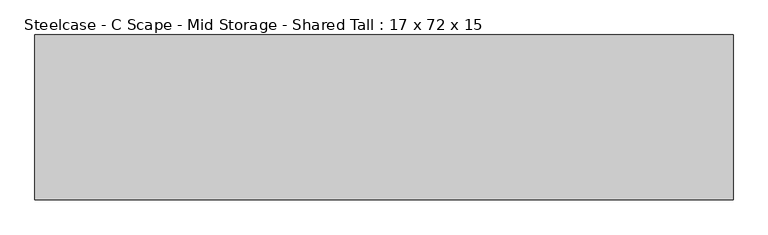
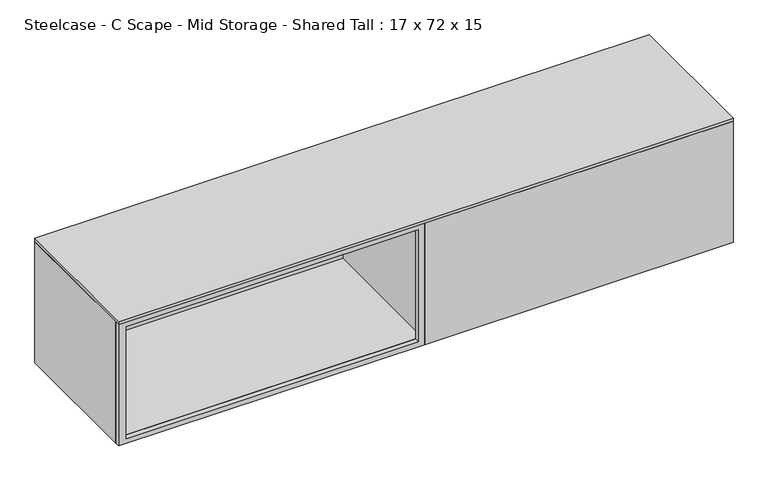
"""IFC4 building model written with IfcOpenShell, lengths in millimetres: furniture geometry, Steelcase - C Scape - Mid Storage - Shared Tall : 17 x 72 x 15."""

from ifc_helpers import new_model, si_unit, frame, origin, place, context, project, spatial, polyline, outline, extrude, faceted_brep, source, transform, mapped, element, save


def steelcase_c_scape_mid_storage_shared_tall_17_x_72_x_15_359ef890(model_context):
    return source(origin(), model_context, "Body", "SolidModel", [
        faceted_brep([(917.575, 215.9, 1219.279375), (0.0, 215.9, 1219.279375), (0.0, -201.2949309, 1219.279375), (21.9711633, -201.2949309, 1219.279375), (21.9711633, 206.3755809, 1219.279375), (911.225, 206.3755809, 1219.279375), (911.225, -215.9, 1219.279375), (1828.8, -215.9, 1219.279375), (1828.8, 206.3755809, 1219.279375), (1806.702, 206.3755809, 1219.279375), (1806.702, -201.2949309, 1219.279375), (917.575, -201.2949309, 1219.279375), (1828.8, 206.3755809, 838.2), (1828.8, -215.9, 838.2), (911.225, -215.9, 838.2), (911.225, -201.2949309, 838.2), (0.0, -201.2949309, 838.2), (0.0, 215.9, 838.2), (917.575, 215.9, 838.2), (917.575, 206.3755809, 838.2), (911.225, -201.2949309, 853.4399855), (21.9711633, -201.2949309, 853.4399855), (21.9711633, 206.3755809, 853.4399855), (911.225, 206.3755809, 853.4399855), (917.575, 206.3755809, 853.4399855), (1806.702, 206.3755809, 853.4399855), (1806.702, -201.2949309, 853.4399855), (917.575, -201.2949309, 853.4399855)], [[[0, 1, 2, 3, 4, 5, 6, 7, 8, 9, 10, 11]], [[12, 13, 14, 15, 16, 17, 18, 19]], [[1, 0, 18, 17]], [[2, 1, 17, 16]], [[3, 2, 16, 15, 20, 21]], [[4, 3, 21, 22]], [[5, 4, 22, 23]], [[6, 5, 23, 20, 15, 14]], [[7, 6, 14, 13]], [[8, 7, 13, 12]], [[9, 8, 12, 19, 24, 25]], [[10, 9, 25, 26]], [[11, 10, 26, 27]], [[0, 11, 27, 24, 19, 18]], [[21, 20, 23, 22]], [[25, 24, 27, 26]]]),
        extrude(outline(polyline([(1219.279375, 1828.8), (1219.279375, 917.575), (838.2, 917.575), (838.2, 1828.8), (1219.279375, 1828.8)]), holes=[polyline([(1205.8427824, 1806.702), (853.4399855, 1806.702), (853.4399855, 936.498), (1205.8427824, 936.498), (1205.8427824, 1806.702)])]), frame((0.0, 206.3755809, 0.0), z_axis=(0.0, 1.0, 0.0), x_axis=(0.0, 0.0, 1.0)), (0.0, 0.0, 1.0), 9.5244191),
        extrude(outline(polyline([(1219.279375, 911.225), (1219.279375, 0.0), (838.2, 0.0), (838.2, 911.225), (1219.279375, 911.225)]), holes=[polyline([(1205.8427824, 892.302), (853.4399855, 892.302), (853.4399855, 21.9711633), (1205.8427824, 21.9711633), (1205.8427824, 892.302)])]), frame((0.0, -215.9, 0.0), z_axis=(0.0, 1.0, 0.0), x_axis=(0.0, 0.0, 1.0)), (0.0, 0.0, 1.0), 14.6050691),
        extrude(outline(polyline([(1828.8, -215.9), (0.0, -215.9), (0.0, 215.9), (1828.8, 215.9), (1828.8, -215.9)])), frame((0.0, 0.0, 1219.279375), z_axis=(0.0, 0.0, 1.0), x_axis=(1.0, 0.0, 0.0)), (0.0, 0.0, 1.0), 10.080625),
    ])


if __name__ == "__main__":
    model = new_model("IFC4")
    model_context = context("Model", 3, world=origin())
    ifc_project = project(units=[si_unit("LENGTHUNIT", "METRE", prefix="MILLI")], contexts=[model_context])
    site = spatial("IfcSite", under=ifc_project)
    building = spatial("IfcBuilding", under=site)
    placement = place(None, origin())
    steelcase_c_scape_mid_storage_shared_tall_17_x_72_x_15_shape = steelcase_c_scape_mid_storage_shared_tall_17_x_72_x_15_359ef890(model_context)
    element("IfcFurniture", 1, ObjectType="Steelcase - C Scape - Mid Storage - Shared Tall : 17 x 72 x 15", at=placement, inside=building, context=model_context, shape_type="MappedRepresentation", body=[
        mapped(steelcase_c_scape_mid_storage_shared_tall_17_x_72_x_15_shape, transform((0.0, 0.0, 0.0), x_axis=(1.0, 0.0, 0.0), y_axis=(0.0, 1.0, 0.0), z_axis=(0.0, 0.0, 1.0))),
    ])
    save(model, "model.ifc")
